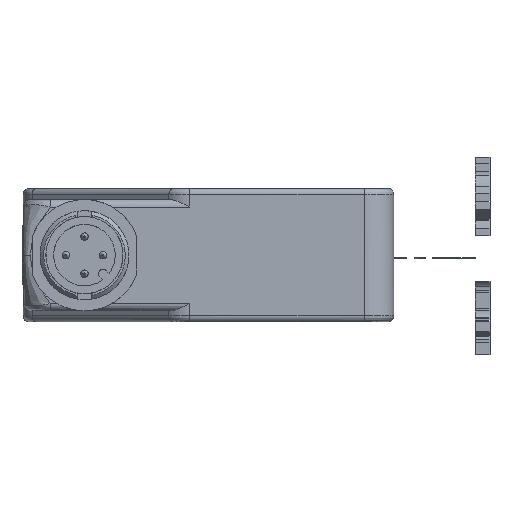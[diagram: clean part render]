
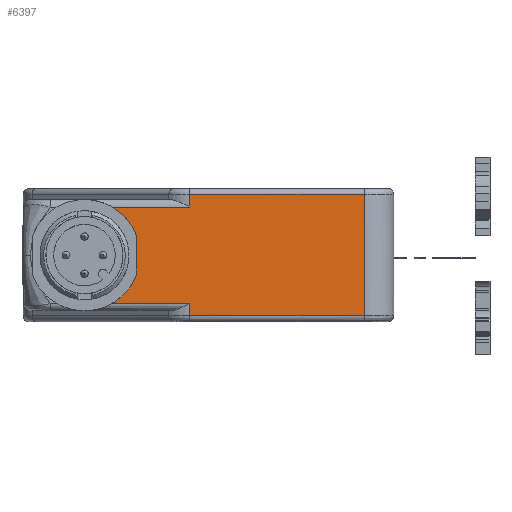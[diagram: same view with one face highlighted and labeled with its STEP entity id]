
A CAD part, front view. The second image highlights one B-rep face of the part: STEP entity #6397.
In plain terms, the highlighted planar face has unit normal (0, -1, 0).
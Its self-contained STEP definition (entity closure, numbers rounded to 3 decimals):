
#5400=B_SPLINE_CURVE_WITH_KNOTS('',3,(#28466,#28467,#28468,#28469),.UNSPECIFIED.,
 .F.,.F.,(4,4),(0.,1.),.UNSPECIFIED.);
#5479=B_SPLINE_CURVE_WITH_KNOTS('',3,(#31605,#31606,#31607,#31608),.UNSPECIFIED.,
 .F.,.F.,(4,4),(0.,1.),.UNSPECIFIED.);
#5623=B_SPLINE_CURVE_WITH_KNOTS('',3,(#32662,#32663,#32664,#32665),.UNSPECIFIED.,
 .F.,.F.,(4,4),(0.,1.),.UNSPECIFIED.);
#5650=B_SPLINE_CURVE_WITH_KNOTS('',3,(#34302,#34303,#34304,#34305),.UNSPECIFIED.,
 .F.,.F.,(4,4),(0.,1.),.UNSPECIFIED.);
#5651=B_SPLINE_CURVE_WITH_KNOTS('',3,(#34307,#34308,#34309,#34310),.UNSPECIFIED.,
 .F.,.F.,(4,4),(0.,1.),.UNSPECIFIED.);
#5652=B_SPLINE_CURVE_WITH_KNOTS('',3,(#34312,#34313,#34314,#34315,#34316,
#34317,#34318,#34319,#34320,#34321,#34322,#34323,#34324,#34325,#34326),.UNSPECIFIED.,
 .F.,.F.,(4,2,2,2,1,2,2,4),(0.,0.25,0.375,0.5,
0.625,0.688,0.75,1.),.UNSPECIFIED.);
#5653=B_SPLINE_CURVE_WITH_KNOTS('',3,(#34328,#34329,#34330,#34331),.UNSPECIFIED.,
 .F.,.F.,(4,4),(0.,1.),.UNSPECIFIED.);
#5654=B_SPLINE_CURVE_WITH_KNOTS('',3,(#34333,#34334,#34335,#34336,#34337,
#34338,#34339,#34340,#34341,#34342,#34343,#34344,#34345,#34346),.UNSPECIFIED.,
 .F.,.F.,(4,2,2,2,2,2,4),(0.,0.125,0.188,0.25,
0.375,0.5,1.),.UNSPECIFIED.);
#5655=B_SPLINE_CURVE_WITH_KNOTS('',3,(#34348,#34349,#34350,#34351),.UNSPECIFIED.,
 .F.,.F.,(4,4),(0.,1.),.UNSPECIFIED.);
#5656=B_SPLINE_CURVE_WITH_KNOTS('',3,(#34353,#34354,#34355,#34356),.UNSPECIFIED.,
 .F.,.F.,(4,4),(0.,1.),.UNSPECIFIED.);
#6397=ADVANCED_FACE('',(#7236),#6780,.T.);
#6780=PLANE('',#13911);
#7236=FACE_OUTER_BOUND('',#7839,.T.);
#7839=EDGE_LOOP('',(#9982,#9983,#9984,#9985,#9986,#9987,#9988,#9989,#9990,
#9991));
#9982=ORIENTED_EDGE('',*,*,#12641,.F.);
#9983=ORIENTED_EDGE('',*,*,#12835,.T.);
#9984=ORIENTED_EDGE('',*,*,#12836,.T.);
#9985=ORIENTED_EDGE('',*,*,#12837,.T.);
#9986=ORIENTED_EDGE('',*,*,#12838,.T.);
#9987=ORIENTED_EDGE('',*,*,#12839,.T.);
#9988=ORIENTED_EDGE('',*,*,#12840,.T.);
#9989=ORIENTED_EDGE('',*,*,#12841,.T.);
#9990=ORIENTED_EDGE('',*,*,#12797,.F.);
#9991=ORIENTED_EDGE('',*,*,#12559,.F.);
#11444=VERTEX_POINT('',#28465);
#11445=VERTEX_POINT('',#28470);
#11486=VERTEX_POINT('',#31604);
#11564=VERTEX_POINT('',#32635);
#11582=VERTEX_POINT('',#34306);
#11583=VERTEX_POINT('',#34311);
#11584=VERTEX_POINT('',#34327);
#11585=VERTEX_POINT('',#34332);
#11586=VERTEX_POINT('',#34347);
#11587=VERTEX_POINT('',#34352);
#12559=EDGE_CURVE('',#11444,#11445,#5400,.T.);
#12641=EDGE_CURVE('',#11486,#11444,#5479,.T.);
#12797=EDGE_CURVE('',#11445,#11564,#5623,.T.);
#12835=EDGE_CURVE('',#11486,#11582,#5650,.T.);
#12836=EDGE_CURVE('',#11582,#11583,#5651,.T.);
#12837=EDGE_CURVE('',#11583,#11584,#5652,.T.);
#12838=EDGE_CURVE('',#11584,#11585,#5653,.T.);
#12839=EDGE_CURVE('',#11585,#11586,#5654,.T.);
#12840=EDGE_CURVE('',#11586,#11587,#5655,.T.);
#12841=EDGE_CURVE('',#11587,#11564,#5656,.T.);
#13911=AXIS2_PLACEMENT_3D('',#34357,#14883,#14884);
#14883=DIRECTION('',(0.,-1.,0.));
#14884=DIRECTION('',(-1.,0.,0.));
#28465=CARTESIAN_POINT('',(75.455,88.595,8.));
#28466=CARTESIAN_POINT('',(75.455,88.595,8.));
#28467=CARTESIAN_POINT('',(75.455,88.595,2.533));
#28468=CARTESIAN_POINT('',(75.455,88.595,-2.933));
#28469=CARTESIAN_POINT('',(75.455,88.595,-8.4));
#28470=CARTESIAN_POINT('',(75.455,88.595,-8.4));
#31604=CARTESIAN_POINT('',(51.941,88.595,8.));
#31605=CARTESIAN_POINT('',(51.941,88.595,8.));
#31606=CARTESIAN_POINT('',(59.779,88.595,8.));
#31607=CARTESIAN_POINT('',(67.617,88.595,8.));
#31608=CARTESIAN_POINT('',(75.455,88.595,8.));
#32635=CARTESIAN_POINT('',(51.941,88.595,-8.4));
#32662=CARTESIAN_POINT('',(75.455,88.595,-8.4));
#32663=CARTESIAN_POINT('',(67.617,88.595,-8.4));
#32664=CARTESIAN_POINT('',(59.779,88.595,-8.4));
#32665=CARTESIAN_POINT('',(51.941,88.595,-8.4));
#34302=CARTESIAN_POINT('',(51.941,88.595,8.));
#34303=CARTESIAN_POINT('',(51.941,88.595,7.433));
#34304=CARTESIAN_POINT('',(51.941,88.595,6.867));
#34305=CARTESIAN_POINT('',(51.941,88.595,6.3));
#34306=CARTESIAN_POINT('',(51.941,88.595,6.3));
#34307=CARTESIAN_POINT('',(51.941,88.595,6.3));
#34308=CARTESIAN_POINT('',(48.444,88.595,6.3));
#34309=CARTESIAN_POINT('',(44.947,88.595,6.3));
#34310=CARTESIAN_POINT('',(41.45,88.595,6.3));
#34311=CARTESIAN_POINT('',(41.45,88.595,6.3));
#34312=CARTESIAN_POINT('',(41.45,88.595,6.3));
#34313=CARTESIAN_POINT('',(41.831,88.595,6.08));
#34314=CARTESIAN_POINT('',(42.191,88.595,5.829));
#34315=CARTESIAN_POINT('',(42.691,88.595,5.41));
#34316=CARTESIAN_POINT('',(42.851,88.595,5.264));
#34317=CARTESIAN_POINT('',(43.158,88.595,4.958));
#34318=CARTESIAN_POINT('',(43.308,88.595,4.794));
#34319=CARTESIAN_POINT('',(43.581,88.595,4.47));
#34320=CARTESIAN_POINT('',(43.775,88.595,4.218));
#34321=CARTESIAN_POINT('',(43.953,88.595,3.955));
#34322=CARTESIAN_POINT('',(44.068,88.595,3.777));
#34323=CARTESIAN_POINT('',(44.126,88.595,3.683));
#34324=CARTESIAN_POINT('',(44.384,88.595,3.243));
#34325=CARTESIAN_POINT('',(44.561,88.595,2.876));
#34326=CARTESIAN_POINT('',(44.709,88.595,2.493));
#34327=CARTESIAN_POINT('',(44.709,88.595,2.493));
#34328=CARTESIAN_POINT('',(44.709,88.595,2.493));
#34329=CARTESIAN_POINT('',(44.709,88.595,0.698));
#34330=CARTESIAN_POINT('',(44.709,88.595,-1.098));
#34331=CARTESIAN_POINT('',(44.709,88.595,-2.893));
#34332=CARTESIAN_POINT('',(44.709,88.595,-2.893));
#34333=CARTESIAN_POINT('',(44.709,88.595,-2.893));
#34334=CARTESIAN_POINT('',(44.635,88.595,-3.084));
#34335=CARTESIAN_POINT('',(44.554,88.595,-3.271));
#34336=CARTESIAN_POINT('',(44.421,88.595,-3.546));
#34337=CARTESIAN_POINT('',(44.375,88.595,-3.637));
#34338=CARTESIAN_POINT('',(44.279,88.595,-3.818));
#34339=CARTESIAN_POINT('',(44.231,88.595,-3.904));
#34340=CARTESIAN_POINT('',(44.07,88.595,-4.178));
#34341=CARTESIAN_POINT('',(43.955,88.595,-4.356));
#34342=CARTESIAN_POINT('',(43.711,88.595,-4.702));
#34343=CARTESIAN_POINT('',(43.584,88.595,-4.866));
#34344=CARTESIAN_POINT('',(42.885,88.595,-5.697));
#34345=CARTESIAN_POINT('',(42.213,88.595,-6.261));
#34346=CARTESIAN_POINT('',(41.45,88.595,-6.7));
#34347=CARTESIAN_POINT('',(41.45,88.595,-6.7));
#34348=CARTESIAN_POINT('',(41.45,88.595,-6.7));
#34349=CARTESIAN_POINT('',(44.947,88.595,-6.7));
#34350=CARTESIAN_POINT('',(48.444,88.595,-6.7));
#34351=CARTESIAN_POINT('',(51.941,88.595,-6.7));
#34352=CARTESIAN_POINT('',(51.941,88.595,-6.7));
#34353=CARTESIAN_POINT('',(51.941,88.595,-6.7));
#34354=CARTESIAN_POINT('',(51.941,88.595,-7.267));
#34355=CARTESIAN_POINT('',(51.941,88.595,-7.833));
#34356=CARTESIAN_POINT('',(51.941,88.595,-8.4));
#34357=CARTESIAN_POINT('',(79.755,88.595,9.));
